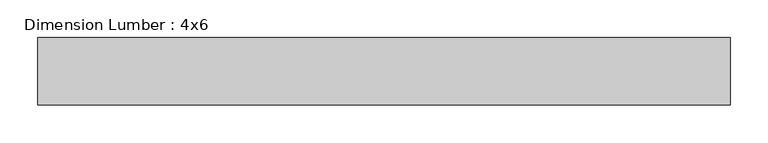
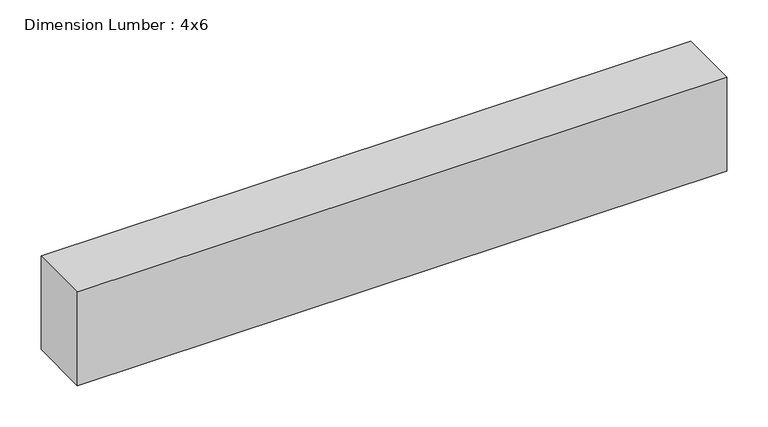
"""IFC4 building model written with IfcOpenShell, lengths in millimetres: beam geometry, Dimension Lumber : 4x6."""

from ifc_helpers import new_model, si_unit, frame, origin, place, context, project, spatial, polyline, outline, extrude, source, transform, mapped, element, save


def dimension_lumber_4x6_398ed19f(model_context):
    return source(origin(), model_context, "Body", "SweptSolid", [
        extrude(outline(polyline([(457.2, 44.45), (457.2, -44.45), (-457.2, -44.45), (-457.2, 44.45), (457.2, 44.45)])), frame((0.0, 0.0, -69.85), z_axis=(0.0, 0.0, 1.0), x_axis=(1.0, 0.0, 0.0)), (0.0, 0.0, 1.0), 139.7),
    ])


if __name__ == "__main__":
    model = new_model("IFC4")
    model_context = context("Model", 3, world=origin())
    ifc_project = project(units=[si_unit("LENGTHUNIT", "METRE", prefix="MILLI")], contexts=[model_context])
    site = spatial("IfcSite", under=ifc_project)
    building = spatial("IfcBuilding", under=site)
    placement = place(None, origin())
    dimension_lumber_4x6_shape = dimension_lumber_4x6_398ed19f(model_context)
    element("IfcBeam", 1, ObjectType="Dimension Lumber : 4x6", at=placement, inside=building, context=model_context, shape_type="MappedRepresentation", body=[
        mapped(dimension_lumber_4x6_shape, transform((0.0, 0.0, 0.0), x_axis=(1.0, 0.0, 0.0), y_axis=(0.0, 1.0, 0.0), z_axis=(0.0, 0.0, 1.0))),
    ])
    save(model, "model.ifc")
